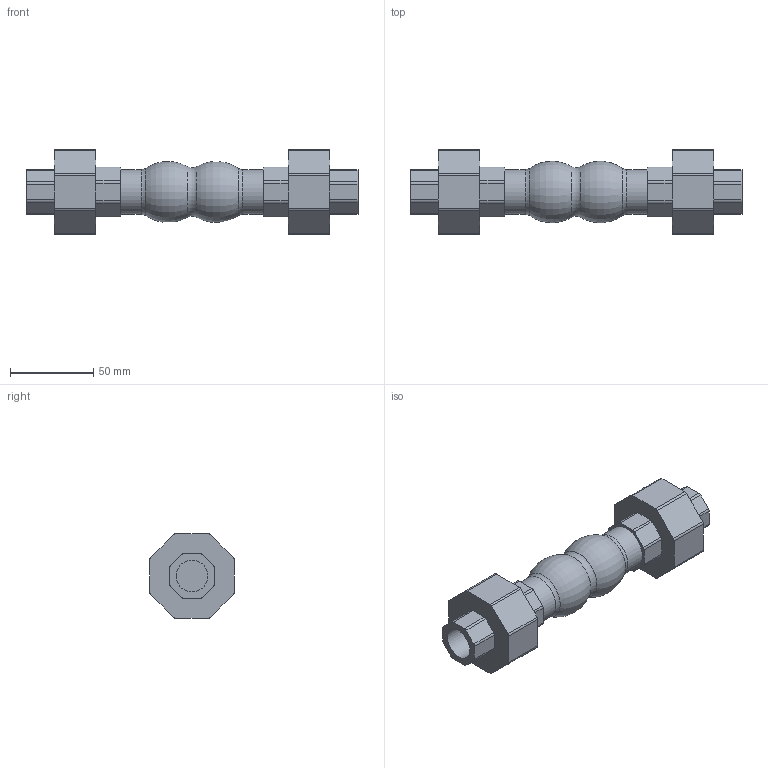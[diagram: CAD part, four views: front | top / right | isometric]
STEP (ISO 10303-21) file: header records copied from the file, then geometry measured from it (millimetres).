
FILE_DESCRIPTION(('STEP AP203'), '1');
FILE_NAME('3D_505-015-16', '', ('UNSPECIFIED'), ('UNSPECIFIED'), 'C3D Converter', 'C3D Toolkit', '');
FILE_SCHEMA(('CONFIG_CONTROL_DESIGN'));
Length unit declared in the file: millimetre
Bounding box: 200 x 51 x 51 mm (x, y, z)
Volume: 209659.8 mm3; surface area: 32793.7 mm2
Topology: 1 solids, 1 shells, 115 faces, 319 edges, 214 vertices
Faces by surface type: plane 58, cylinder 52, torus 5
Full cylindrical faces by diameter (mm): 19 x2, 27 x2
Entity records: 4633 total; most frequent: DIRECTION 660, CARTESIAN_POINT 640, ORIENTED_EDGE 620, EDGE_CURVE 310, AXIS2_PLACEMENT_3D 234, VERTEX_POINT 214, LINE 192, VECTOR 192
